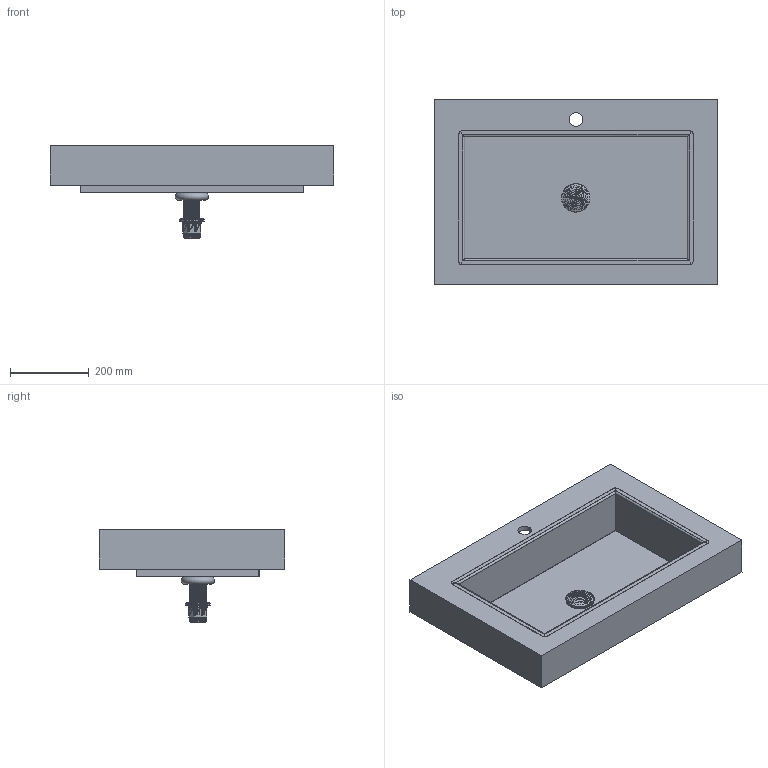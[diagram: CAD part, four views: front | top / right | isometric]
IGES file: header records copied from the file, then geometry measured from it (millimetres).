
Start section: Data from Parasolid IGES Translator 19.0.9, Copyright(c) 2006 Siemens PL M Software. All Rights Reserved.
Global section: file name: noorth-top-H 10 D 47,3 W 72_6557.igs; native system: By Siemens PLM Incorporated; preprocessor: XPlus GENERIC/IGES 19.0.9; author: Noname; organization: Noname; date: 20200603.105513; units: metre
Bounding box: 720 x 472 x 235.2 mm (x, y, z)
Volume: 3756290.9 mm3; surface area: 1504578.7 mm2
Topology: 2 solids, 2 shells, 11736 faces, 35129 edges, 35015 vertices
Faces by surface type: extrusion 11618, plane 64, cylinder 28, bspline 20, torus 4, cone 2
Full cylindrical faces by diameter (mm): 34.9 x1, 42 x1, 46 x1, 47.6 x1
